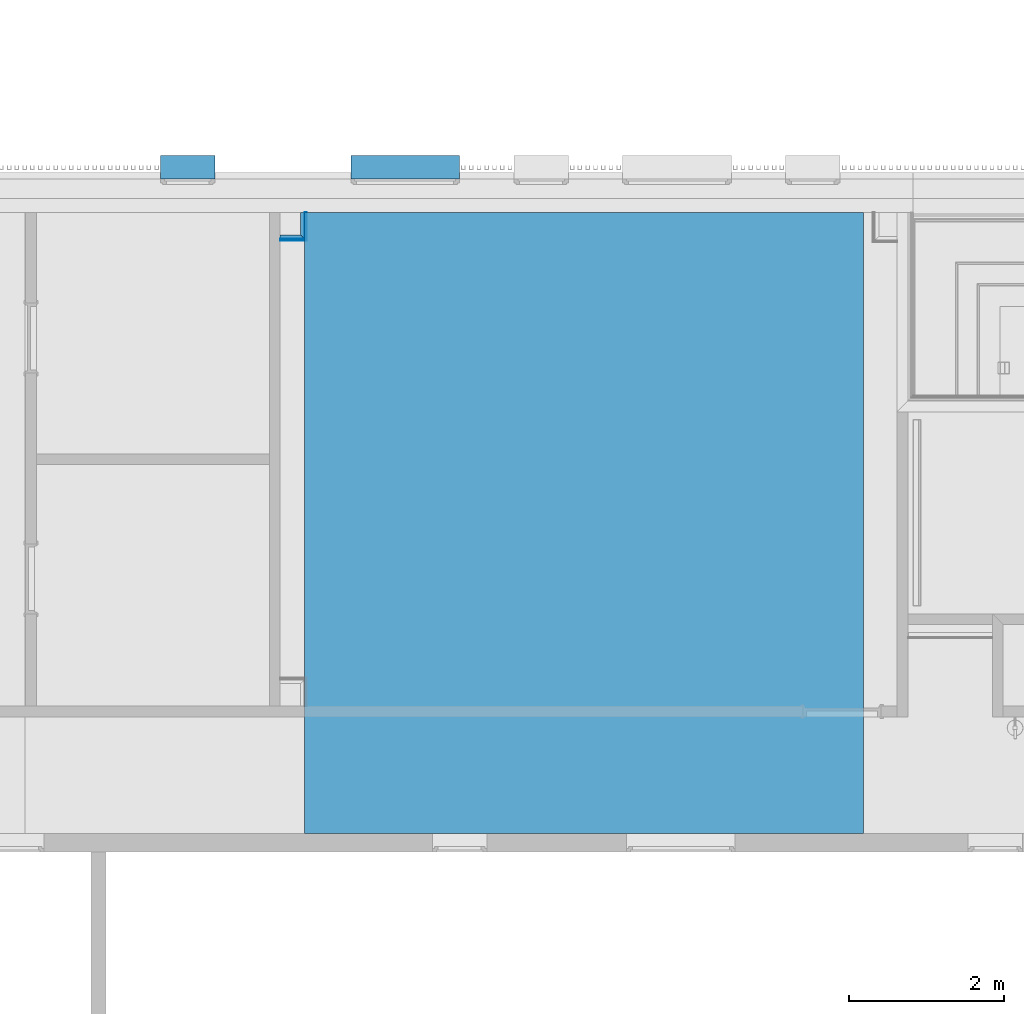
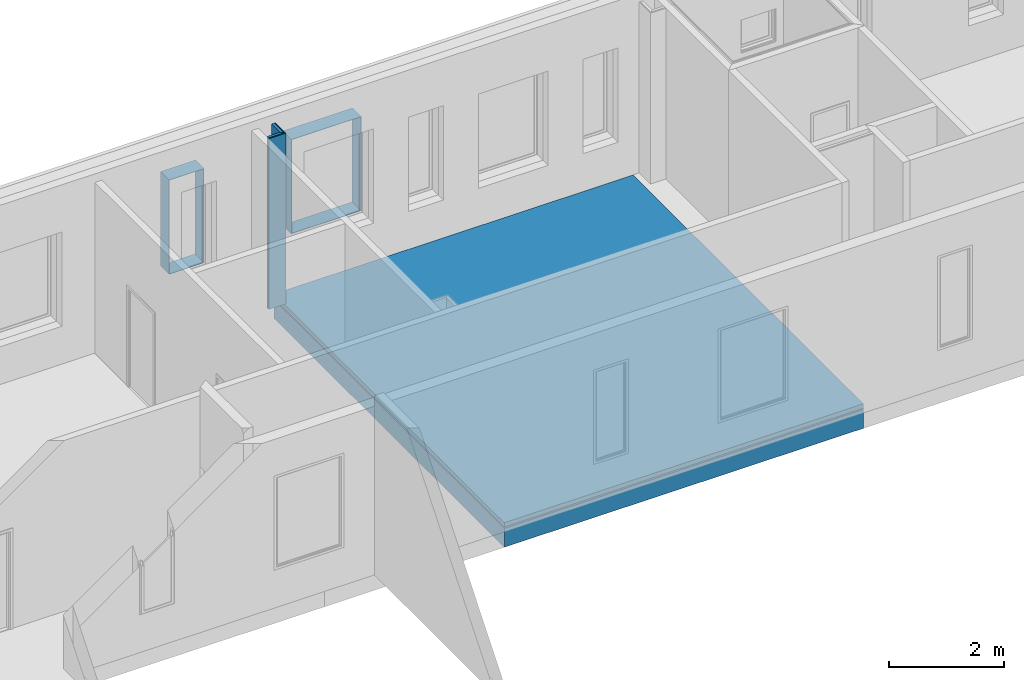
# One storey, part 25 of 100: 9 building element parts, 2 discrete accessories, 3 elements without a shape of their own.
"""IFC2X3 building model written with IfcOpenShell, lengths in millimetres."""

from ifc_helpers import new_model, entity, si_unit, converted_unit, derived_unit, money_unit, direction, frame, origin_with_axes, place, context, subcontext, project, spatial, polyline, outline, extrude, faceted_brep, source, transform, mapped, material, type_object, element, aggregate, save


model = new_model("IFC2X3")

# Units and contexts
model_context = context("Model", 3, precision=0.01, world=origin_with_axes(), true_north=direction((0.0, 1.0)))
body_context = subcontext(model_context, "Body", "Model", "MODEL_VIEW")
ifc_project = project(units=[si_unit("LENGTHUNIT", "METRE", prefix="MILLI"), si_unit("AREAUNIT", "SQUARE_METRE"), si_unit("VOLUMEUNIT", "CUBIC_METRE"), converted_unit("PLANEANGLEUNIT", "DEGREE", entity("IfcPlaneAngleMeasure", 0.0174532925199), si_unit("PLANEANGLEUNIT", "RADIAN"), dimensions=[0, 0, 0, 0, 0, 0, 0]), si_unit("SOLIDANGLEUNIT", "STERADIAN"), money_unit("EUR"), converted_unit("TIMEUNIT", "Year", entity("IfcTimeMeasure", 31556926.0), si_unit("TIMEUNIT", "SECOND"), dimensions=[0, 0, 1, 0, 0, 0, 0]), si_unit("MASSUNIT", "GRAM", prefix="KILO"), si_unit("THERMODYNAMICTEMPERATUREUNIT", "DEGREE_CELSIUS"), si_unit("LUMINOUSINTENSITYUNIT", "LUMEN"), si_unit("ENERGYUNIT", "JOULE", prefix="MEGA"), derived_unit("THERMALCONDUCTANCEUNIT", [(si_unit("POWERUNIT", "WATT"), 1), (si_unit("LENGTHUNIT", "METRE"), -1), (si_unit("THERMODYNAMICTEMPERATUREUNIT", "KELVIN"), -1)]), derived_unit("SPECIFICHEATCAPACITYUNIT", [(si_unit("ENERGYUNIT", "JOULE"), 1), (si_unit("MASSUNIT", "GRAM", prefix="KILO"), -1), (si_unit("THERMODYNAMICTEMPERATUREUNIT", "KELVIN"), -1)]), derived_unit("MASSDENSITYUNIT", [(si_unit("MASSUNIT", "GRAM", prefix="KILO"), 1), (si_unit("VOLUMEUNIT", "CUBIC_METRE"), -1)])], contexts=[model_context])

# Site, building, storey
site_placement = place(None, origin_with_axes())
site = spatial("IfcSite", under=ifc_project, at=site_placement, Name="Politse- ja Piirivalveameti ning Päästeameti ühishoone", CompositionType="ELEMENT")
building_placement = place(site_placement, origin_with_axes())
building = spatial("IfcBuilding", under=site, at=building_placement, Name="Politse- ja Piirivalveameti ning Päästeameti ühishoone", CompositionType="ELEMENT")
storey_placement = place(building_placement, frame((0.0, 0.0, 3800.0), z_axis=(0.0, 0.0, 1.0), x_axis=(1.0, 0.0, 0.0)))
storey = spatial("IfcBuildingStorey", under=building, at=storey_placement, Name="Teine korrus", CompositionType="ELEMENT", Elevation=3800.0)

# Discrete accessories
ifc_material_1 = material(Name="SV-01_Krohv - Kips")
discrete_accessory_type = type_object("IfcDiscreteAccessoryType", Name="Architrave 01 23")
shared_shape_1 = source(origin_with_axes(), body_context, "Body", "Brep", [
    faceted_brep([(350.0, 0.0, -10.0), (350.0, -300.182356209, -10.0), (-350.0, -300.182356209, -10.0), (-350.0, 0.0, -10.0), (340.0, 0.0, 0.0), (340.0, -300.182356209, 0.0), (-340.0, -300.182356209, 0.0), (-340.0, 0.0, 0.0)], [[[0, 1, 2, 3]], [[4, 5, 1, 0]], [[1, 5, 6, 2]], [[3, 2, 6, 7]], [[0, 3, 7, 4]], [[7, 6, 5, 4]]]),
    faceted_brep([(-350.0, 0.0, -10.0), (-350.0, -300.182356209, -10.0), (-350.0, -300.182356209, 1990.0), (-350.0, 0.0, 1990.0), (-340.0, 0.0, 0.0), (-340.0, -300.182356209, 0.0), (-340.0, -300.182356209, 1980.0), (-340.0, 0.0, 1980.0)], [[[0, 1, 2, 3]], [[4, 5, 1, 0]], [[1, 5, 6, 2]], [[3, 2, 6, 7]], [[0, 3, 7, 4]], [[7, 6, 5, 4]]]),
    faceted_brep([(-350.0, 0.0, 1990.0), (-350.0, -300.182356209, 1990.0), (350.0, -300.182356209, 1990.0), (350.0, 0.0, 1990.0), (-340.0, 0.0, 1980.0), (-340.0, -300.182356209, 1980.0), (340.0, -300.182356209, 1980.0), (340.0, 0.0, 1980.0)], [[[0, 1, 2, 3]], [[4, 5, 1, 0]], [[1, 5, 6, 2]], [[3, 2, 6, 7]], [[0, 3, 7, 4]], [[7, 6, 5, 4]]]),
    faceted_brep([(350.0, 0.0, 1990.0), (350.0, -300.182356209, 1990.0), (350.0, -300.182356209, -10.0), (350.0, 0.0, -10.0), (340.0, 0.0, 1980.0), (340.0, -300.182356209, 1980.0), (340.0, -300.182356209, 0.0), (340.0, 0.0, 0.0)], [[[0, 1, 2, 3]], [[4, 5, 1, 0]], [[1, 5, 6, 2]], [[3, 2, 6, 7]], [[0, 3, 7, 4]], [[7, 6, 5, 4]]]),
])
discrete_accessory_1_placement = place(storey_placement, frame((33909.0536426, 21429.9520832, 810.0), z_axis=(0.0, 0.0, 1.0), x_axis=(-1.0, 0.0, 0.0)))
element("IfcDiscreteAccessory", 1, at=discrete_accessory_1_placement, inside=storey, type_object=discrete_accessory_type, material=ifc_material_1, Name="AKNARAAM 01", context=body_context, shape_type="MappedRepresentation", body=[
    mapped(shared_shape_1, transform((0.0, 0.0, 0.0))),
])
shared_shape_2 = source(origin_with_axes(), body_context, "Body", "Brep", [
    faceted_brep([(700.0, 0.0, -10.0), (700.0, -300.182356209, -10.0), (-700.0, -300.182356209, -10.0), (-700.0, 0.0, -10.0), (690.0, 0.0, 0.0), (690.0, -300.182356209, 0.0), (-690.0, -300.182356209, 0.0), (-690.0, 0.0, 0.0)], [[[0, 1, 2, 3]], [[4, 5, 1, 0]], [[1, 5, 6, 2]], [[3, 2, 6, 7]], [[0, 3, 7, 4]], [[7, 6, 5, 4]]]),
    faceted_brep([(-700.0, 0.0, -10.0), (-700.0, -300.182356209, -10.0), (-700.0, -300.182356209, 1990.0), (-700.0, 0.0, 1990.0), (-690.0, 0.0, 0.0), (-690.0, -300.182356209, 0.0), (-690.0, -300.182356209, 1980.0), (-690.0, 0.0, 1980.0)], [[[0, 1, 2, 3]], [[4, 5, 1, 0]], [[1, 5, 6, 2]], [[3, 2, 6, 7]], [[0, 3, 7, 4]], [[7, 6, 5, 4]]]),
    faceted_brep([(-700.0, 0.0, 1990.0), (-700.0, -300.182356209, 1990.0), (700.0, -300.182356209, 1990.0), (700.0, 0.0, 1990.0), (-690.0, 0.0, 1980.0), (-690.0, -300.182356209, 1980.0), (690.0, -300.182356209, 1980.0), (690.0, 0.0, 1980.0)], [[[0, 1, 2, 3]], [[4, 5, 1, 0]], [[1, 5, 6, 2]], [[3, 2, 6, 7]], [[0, 3, 7, 4]], [[7, 6, 5, 4]]]),
    faceted_brep([(700.0, 0.0, 1990.0), (700.0, -300.182356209, 1990.0), (700.0, -300.182356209, -10.0), (700.0, 0.0, -10.0), (690.0, 0.0, 1980.0), (690.0, -300.182356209, 1980.0), (690.0, -300.182356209, 0.0), (690.0, 0.0, 0.0)], [[[0, 1, 2, 3]], [[4, 5, 1, 0]], [[1, 5, 6, 2]], [[3, 2, 6, 7]], [[0, 3, 7, 4]], [[7, 6, 5, 4]]]),
])
discrete_accessory_2_placement = place(storey_placement, frame((36709.1843169, 21429.9520832, 810.0), z_axis=(0.0, 0.0, 1.0), x_axis=(-1.0, 0.0, 0.0)))
element("IfcDiscreteAccessory", 2, at=discrete_accessory_2_placement, inside=storey, type_object=discrete_accessory_type, material=ifc_material_1, Name="AKNARAAM 01", context=body_context, shape_type="MappedRepresentation", body=[
    mapped(shared_shape_2, transform((0.0, 0.0, 0.0))),
])

# Slab, building element parts
slab_type = type_object("IfcSlabType", Name="VL-05_Vahelagi   400 paneel 520", PredefinedType="NOTDEFINED")
slab_placement = place(storey_placement, frame((35410.0299173, 20999.8688538, 0.0), z_axis=(0.0, 0.0, 1.0), x_axis=(1.0, 0.0, 0.0)))
slab = element("IfcSlab", 3, at=slab_placement, inside=storey, type_object=slab_type, Name="VL-05", PredefinedType="NOTDEFINED")
ifc_material_2 = material(Name="KON-06_Raudbetoon - Konstruktsioon")
building_element_part_1_placement = place(slab_placement, origin_with_axes())
building_element_part_1 = element("IfcBuildingElementPart", 4, at=building_element_part_1_placement, material=ifc_material_2, Name="KON-06_Raudbetoon - Konstruktsioon", context=body_context, shape_type="SweptSolid", body=[
    extrude(outline(polyline([(0.0, 0.0), (-0.0355238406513, -7999.84899266), (7200.0019368, -7999.84899266), (7199.99813033, 0.0245567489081), (0.0, 0.0)])), frame((0.0, 0.0, -520.0), z_axis=(0.0, 0.0, 1.0), x_axis=(1.0, 0.0, 0.0)), (0.0, 0.0, 1.0), 400.0),
])
ifc_material_3 = material(Name="SOJ-04_Soojustus - Mineraal Kõva")
building_element_part_2_placement = place(slab_placement, origin_with_axes())
building_element_part_2 = element("IfcBuildingElementPart", 5, at=building_element_part_2_placement, material=ifc_material_3, Name="SOJ-04_Soojustus - Mineraal Kõva", context=body_context, shape_type="SweptSolid", body=[
    extrude(outline(polyline([(0.0, 0.0), (-0.0355238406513, -7999.84899266), (7200.0019368, -7999.84899266), (7199.99813033, 0.0245567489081), (0.0, 0.0)])), frame((0.0, 0.0, -120.0), z_axis=(0.0, 0.0, 1.0), x_axis=(1.0, 0.0, 0.0)), (0.0, 0.0, 1.0), 30.0),
])
ifc_material_4 = material(Name="VKR-01_Betoon")
building_element_part_3_placement = place(slab_placement, origin_with_axes())
building_element_part_3 = element("IfcBuildingElementPart", 6, at=building_element_part_3_placement, material=ifc_material_4, Name="VKR-01_Betoon", context=body_context, shape_type="SweptSolid", body=[
    extrude(outline(polyline([(0.0, 0.0), (-0.0355238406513, -7999.84899266), (7200.0019368, -7999.84899266), (7199.99813033, 0.0245567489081), (0.0, 0.0)])), frame((0.0, 0.0, -90.0), z_axis=(0.0, 0.0, 1.0), x_axis=(1.0, 0.0, 0.0)), (0.0, 0.0, 1.0), 90.0),
])
aggregate(slab, [building_element_part_1, building_element_part_2, building_element_part_3])

# Wall, building element parts
wall_type = type_object("IfcWallType", Name="SS-13_kergsein 75 ümber el-kilbi 75", PredefinedType="NOTDEFINED")
wall_1_placement = place(storey_placement, frame((35438.8458011, 20634.952792, 0.0), z_axis=(0.0, 0.0, 1.0), x_axis=(0.0, 1.0, 0.0)))
wall_1 = element("IfcWall", 7, at=wall_1_placement, inside=storey, type_object=wall_type, Name="SS-13")
ifc_material_5 = material(Name="Õhkvahe - Raam")
building_element_part_4_placement = place(wall_1_placement, origin_with_axes())
building_element_part_4 = element("IfcBuildingElementPart", 8, at=building_element_part_4_placement, material=ifc_material_5, Name="Õhkvahe - Raam", context=body_context, shape_type="SweptSolid", body=[
    extrude(outline(polyline([(25.0, 25.0), (365.000001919, 25.0), (365.0, 75.0), (75.0, 75.0), (25.0, 25.0)])), origin_with_axes(), (0.0, 0.0, 1.0), 3620.0),
])
ifc_material_6 = material(Name="SKR-02_Kipsplaat")
building_element_part_5_placement = place(wall_1_placement, origin_with_axes())
building_element_part_5 = element("IfcBuildingElementPart", 9, at=building_element_part_5_placement, material=ifc_material_6, Name="SKR-02_Kipsplaat", context=body_context, shape_type="SweptSolid", body=[
    extrude(outline(polyline([(12.0, 12.0), (365.000002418, 12.0), (365.000001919, 25.0), (25.0, 25.0), (12.0, 12.0)])), origin_with_axes(), (0.0, 0.0, 1.0), 3620.0),
])
building_element_part_6_placement = place(wall_1_placement, origin_with_axes())
building_element_part_6 = element("IfcBuildingElementPart", 10, at=building_element_part_6_placement, material=ifc_material_6, Name="SKR-02_Kipsplaat", context=body_context, shape_type="SweptSolid", body=[
    extrude(outline(polyline([(0.0, 0.0), (365.000002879, 0.0), (365.000002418, 12.0), (12.0, 12.0), (0.0, 0.0)])), origin_with_axes(), (0.0, 0.0, 1.0), 3620.0),
])
aggregate(wall_1, [building_element_part_4, building_element_part_5, building_element_part_6])

wall_2_placement = place(storey_placement, frame((35438.8458011, 20634.952792, 0.0), z_axis=(0.0, 0.0, 1.0), x_axis=(-1.0, 0.0, 0.0)))
wall_2 = element("IfcWall", 11, at=wall_2_placement, inside=storey, type_object=wall_type, Name="SS-13")
building_element_part_7_placement = place(wall_2_placement, origin_with_axes())
building_element_part_7 = element("IfcBuildingElementPart", 12, at=building_element_part_7_placement, material=ifc_material_5, Name="Õhkvahe - Raam", context=body_context, shape_type="SweptSolid", body=[
    extrude(outline(polyline([(75.0, -75.0), (339.13575157, -75.0), (339.13575157, -25.0), (25.0, -25.0), (75.0, -75.0)])), origin_with_axes(), (0.0, 0.0, 1.0), 3620.0),
])
building_element_part_8_placement = place(wall_2_placement, origin_with_axes())
building_element_part_8 = element("IfcBuildingElementPart", 13, at=building_element_part_8_placement, material=ifc_material_6, Name="SKR-02_Kipsplaat", context=body_context, shape_type="SweptSolid", body=[
    extrude(outline(polyline([(25.0, -25.0), (339.13575157, -25.0), (339.13575157, -12.0), (12.0, -12.0), (25.0, -25.0)])), origin_with_axes(), (0.0, 0.0, 1.0), 3620.0),
])
building_element_part_9_placement = place(wall_2_placement, origin_with_axes())
building_element_part_9 = element("IfcBuildingElementPart", 14, at=building_element_part_9_placement, material=ifc_material_6, Name="SKR-02_Kipsplaat", context=body_context, shape_type="SweptSolid", body=[
    extrude(outline(polyline([(12.0, -12.0), (339.13575157, -12.0), (339.13575157, 0.0), (0.0, 0.0), (12.0, -12.0)])), origin_with_axes(), (0.0, 0.0, 1.0), 3620.0),
])
aggregate(wall_2, [building_element_part_7, building_element_part_8, building_element_part_9])

save(model, "model.ifc")
